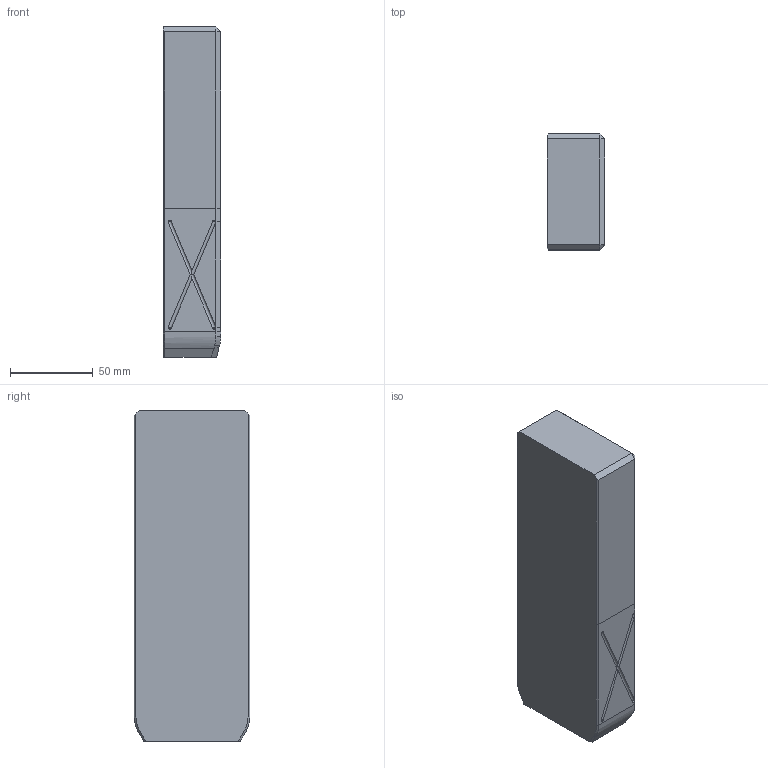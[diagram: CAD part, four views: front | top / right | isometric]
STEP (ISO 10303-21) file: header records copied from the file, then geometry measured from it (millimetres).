
FILE_DESCRIPTION((''),'2;1');
FILE_NAME('','2010-08-30T17:51:11+09:00',('misumi'),(''),'M/STEP i/f 1R2-14','CADmeister v5.1','');
FILE_SCHEMA(('AUTOMOTIVE_DESIGN'));
Length unit declared in the file: millimetre
Products named in the file (1): GW70-90-200
Bounding box: 35 x 70 x 200 mm (x, y, z)
Volume: 483643.3 mm3; surface area: 45597.1 mm2
Topology: 1 solids, 1 shells, 70 faces, 190 edges, 111 vertices
Faces by surface type: plane 35, cylinder 15, revolution 12, bspline 6, cone 2
Entity records: 3330 total; most frequent: CARTESIAN_POINT 786, ORIENTED_EDGE 356, DIRECTION 334, COLOUR_RGB 193, CURVE_STYLE 186, PRESENTATION_STYLE_ASSIGNMENT 185, OVER_RIDING_STYLED_ITEM 184, EDGE_CURVE 178
